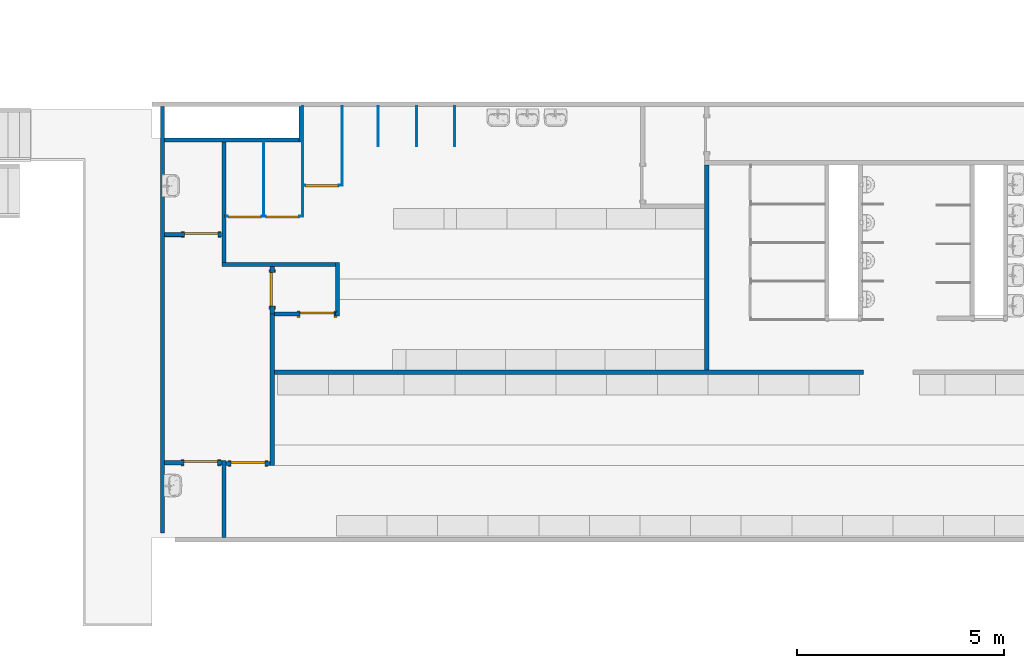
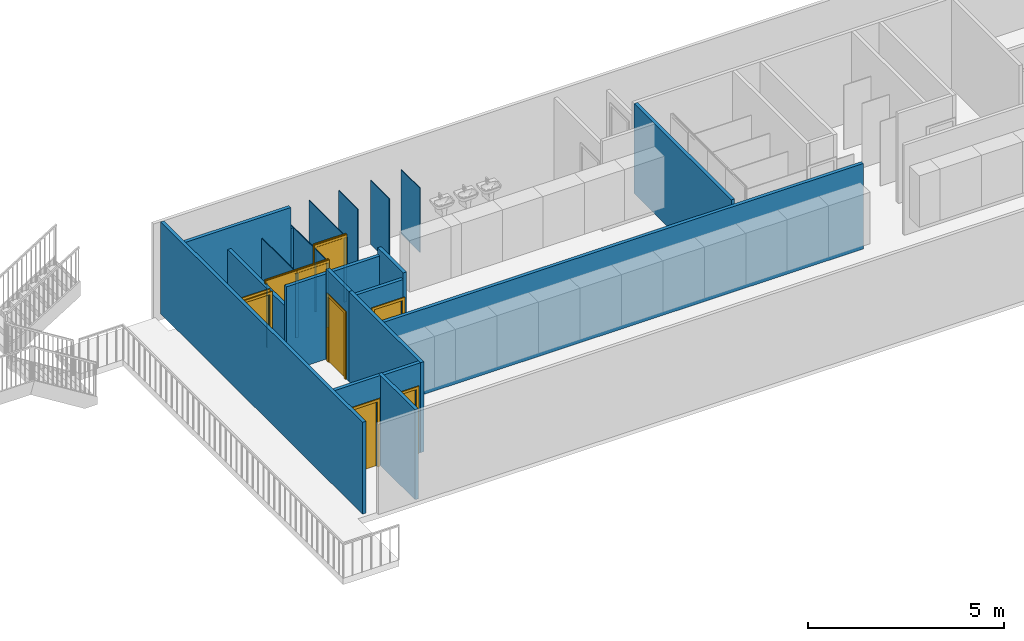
# One storey, part 5 of 14: 24 walls, 8 doors, 8 openings.
"""IFC2X3 building model written with IfcOpenShell, lengths in millimetres."""

from ifc_helpers import new_model, entity, si_unit, converted_unit, derived_unit, direction, frame, frame_2d, origin, origin_2d_with_axis, place, context, subcontext, project, spatial, polyline, rectangle, outline, extrude, clip, bounded_halfspace, source, transform, mapped, material, material_list, layer, layer_set, layer_usage, type_object, type_shapes, element, fill, save


model = new_model("IFC2X3")

# Units and contexts
model_context = context("Model", 3, precision=0.01, world=origin(), true_north=direction((4.05803320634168e-15, -1.0)))
body_context = subcontext(model_context, "Body", "Model", "MODEL_VIEW")
ifc_project = project(units=[si_unit("LENGTHUNIT", "METRE", prefix="MILLI"), si_unit("AREAUNIT", "SQUARE_METRE"), si_unit("VOLUMEUNIT", "CUBIC_METRE"), converted_unit("PLANEANGLEUNIT", "DEGREE", entity("IfcRatioMeasure", 0.0174532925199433), si_unit("PLANEANGLEUNIT", "RADIAN"), dimensions=[0, 0, 0, 0, 0, 0, 0]), si_unit("MASSUNIT", "GRAM", prefix="KILO"), derived_unit("MASSDENSITYUNIT", [(si_unit("MASSUNIT", "GRAM", prefix="KILO"), 1), (si_unit("LENGTHUNIT", "METRE"), -3)]), si_unit("TIMEUNIT", "SECOND"), si_unit("FREQUENCYUNIT", "HERTZ"), si_unit("THERMODYNAMICTEMPERATUREUNIT", "DEGREE_CELSIUS"), derived_unit("THERMALTRANSMITTANCEUNIT", [(si_unit("MASSUNIT", "GRAM", prefix="KILO"), 1), (si_unit("THERMODYNAMICTEMPERATUREUNIT", "KELVIN"), -1), (si_unit("TIMEUNIT", "SECOND"), -3)]), derived_unit("VOLUMETRICFLOWRATEUNIT", [(si_unit("LENGTHUNIT", "METRE"), 3), (si_unit("TIMEUNIT", "SECOND"), -1)]), si_unit("ELECTRICCURRENTUNIT", "AMPERE"), si_unit("ELECTRICVOLTAGEUNIT", "VOLT"), si_unit("POWERUNIT", "WATT"), si_unit("FORCEUNIT", "NEWTON", prefix="KILO"), si_unit("ILLUMINANCEUNIT", "LUX"), si_unit("LUMINOUSFLUXUNIT", "LUMEN"), si_unit("LUMINOUSINTENSITYUNIT", "CANDELA"), derived_unit("USERDEFINED", [(si_unit("MASSUNIT", "GRAM", prefix="KILO"), -1), (si_unit("LENGTHUNIT", "METRE"), -2), (si_unit("TIMEUNIT", "SECOND"), 3), (si_unit("LUMINOUSFLUXUNIT", "LUMEN"), 1)]), derived_unit("LINEARVELOCITYUNIT", [(si_unit("LENGTHUNIT", "METRE"), 1), (si_unit("TIMEUNIT", "SECOND"), -1)]), si_unit("PRESSUREUNIT", "PASCAL"), derived_unit("USERDEFINED", [(si_unit("LENGTHUNIT", "METRE"), -2), (si_unit("MASSUNIT", "GRAM", prefix="KILO"), 1), (si_unit("TIMEUNIT", "SECOND"), -2)])], contexts=[model_context])

# Site, building, storey
site_placement = place(None, frame((927466.849349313, 583801.882853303, 0.0), z_axis=(0.0, 0.0, 1.0), x_axis=(-1.0, 0.0, 0.0)))
site = spatial("IfcSite", under=ifc_project, at=site_placement, Name="Surface", CompositionType="ELEMENT")
building_placement = place(site_placement, origin())
building = spatial("IfcBuilding", under=site, at=building_placement, CompositionType="ELEMENT")
storey_placement = place(building_placement, frame((0.0, 0.0, 48170.0)))
storey = spatial("IfcBuildingStorey", under=building, at=storey_placement, Name="First floor", CompositionType="ELEMENT", Elevation=48170.0)

# Walls
ifc_material_1 = material(Name="Partition")
ifc_layer_1 = layer(ifc_material_1, 100.0)
ifc_layer_set_1 = layer_set([ifc_layer_1], Name="Basic Wall:wall 90 Partition")
ifc_layer_usage_1 = layer_usage(ifc_layer_set_1, "AXIS2", "POSITIVE", -50.0)
wall_type_1 = type_object("IfcWallType", Name="Basic Wall:wall 90 Partition", PredefinedType="STANDARD", material=ifc_layer_set_1)
wall_1_placement = place(storey_placement, frame((-83843.1454492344, 18419.2777512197, 0.0), z_axis=(0.0, 0.0, 1.0), x_axis=(-1.0, 0.0, 0.0)))
element("IfcWallStandardCase", 1, at=wall_1_placement, inside=storey, type_object=wall_type_1, material=ifc_layer_usage_1, Name="Basic Wall:wall 90 Partition", ObjectType="Basic Wall:wall 90 Partition", context=body_context, shape_type="SweptSolid", body=[
    extrude(rectangle(XDim=14199.774002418, YDim=99.9999999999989, at=frame_2d((7099.88700120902, 3.65929508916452e-13), x_axis=(-1.0, 0.0))), origin(), (0.0, 0.0, 1.0), 2657.10660368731),
])
ifc_layer_usage_2 = layer_usage(ifc_layer_set_1, "AXIS2", "NEGATIVE", 50.0)
wall_2_placement = place(storey_placement, frame((-83793.1454492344, 20669.2777512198, 0.0), z_axis=(0.0, 0.0, 1.0), x_axis=(0.0, -1.0, 0.0)))
element("IfcWallStandardCase", 2, at=wall_2_placement, inside=storey, type_object=wall_type_1, material=ifc_layer_usage_2, Name="Basic Wall:wall 90 Partition", ObjectType="Basic Wall:wall 90 Partition", context=body_context, shape_type="SweptSolid", body=[
    extrude(rectangle(XDim=3700.00984857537, YDim=100.000000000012, at=frame_2d((1850.00492428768, -2.68585154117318e-12), x_axis=(-1.0, 0.0))), origin(), (0.0, 0.0, 1.0), 2800.0),
])

# Wall, opening, door
ifc_layer_usage_3 = layer_usage(ifc_layer_set_1, "AXIS2", "POSITIVE", -50.0)
wall_3_placement = place(storey_placement, frame((-82678.1448144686, 20619.2777512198, 0.0), z_axis=(0.0, 0.0, 1.0), x_axis=(-1.0, 0.0, 0.0)))
wall_3 = element("IfcWallStandardCase", 3, at=wall_3_placement, inside=storey, type_object=wall_type_1, material=ifc_layer_usage_3, Name="Basic Wall:wall 90 Partition", ObjectType="Basic Wall:wall 90 Partition", context=body_context, shape_type="SweptSolid", body=[
    extrude(rectangle(XDim=1065.00063476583, YDim=100.000000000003, at=frame_2d((532.500317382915, 1.19371179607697e-12), x_axis=(-1.0, 0.0))), origin(), (0.0, 0.0, 1.0), 2800.0),
])
opening_1_placement = place(wall_3_placement, frame((126.000317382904, -50.0, 0.0)))
opening_1 = element("IfcOpeningElement", 4, at=opening_1_placement, cuts=wall_3, Name="M_Single-Flush:0813 x 2030mm:1", ObjectType="Opening", context=body_context, shape_type="SweptSolid", body=[
    extrude(rectangle(XDim=813.0, YDim=2030.0, at=frame_2d((1015.0, 406.500000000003), x_axis=(0.0, -1.0))), frame((0.0, 0.0, 0.0), z_axis=(0.0, 1.0, 0.0), x_axis=(0.0, 0.0, 1.0)), (0.0, 0.0, 1.0), 100.0),
])
ifc_material_2 = material(Name="Door - Frame")
ifc_material_3 = material(Name="Door - Panel")
ifc_material_list_1 = material_list([ifc_material_2, ifc_material_3])
ifc_material_list_2 = material_list([ifc_material_2, ifc_material_3])
door_style_1 = type_object("IfcDoorStyle", Name="0813 x 2030mm", ConstructionType="NOTDEFINED", OperationType="SINGLE_SWING_LEFT", ParameterTakesPrecedence=False, Sizeable=False, material=ifc_material_list_2)
shared_shape_1 = source(origin(), body_context, "Body", "SweptSolid", [
    extrude(outline(polyline([(-482.5, -1072.0), (482.5, -1072.0), (482.5, 1034.0), (406.5, 1034.0), (406.5, -996.0), (-406.5, -996.0), (-406.5, 1034.0), (-482.5, 1034.0), (-482.5, -1072.0)])), frame((406.5, 125.0, 1034.0), z_axis=(0.0, -1.0, 0.0), x_axis=(-1.0, 0.0, 0.0)), (0.0, 0.0, 1.0), 24.9999999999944),
    extrude(outline(polyline([(-1072.0, -482.499999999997), (1034.0, -482.499999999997), (1034.0, -406.500000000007), (-996.0, -406.500000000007), (-996.0, 406.500000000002), (1034.0, 406.500000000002), (1034.0, 482.500000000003), (-1072.0, 482.500000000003), (-1072.0, -482.499999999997)])), frame((406.499999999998, 0.0, 1034.0), z_axis=(0.0, -1.0, 0.0), x_axis=(0.0, 0.0, -1.0)), (0.0, 0.0, 1.0), 25.0000000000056),
    extrude(rectangle(XDim=813.0, YDim=51.0, at=origin_2d_with_axis()), frame((406.500000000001, 74.4999999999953, 0.0)), (0.0, 0.0, 1.0), 2030.0),
])
type_shapes(door_style_1, [shared_shape_1])
door_1_placement = place(opening_1_placement, origin())
door_1 = element("IfcDoor", 5, at=door_1_placement, inside=storey, type_object=door_style_1, material=ifc_material_list_1, Name="M_Single-Flush:0813 x 2030mm", ObjectType="0813 x 2030mm", OverallHeight=2030.0, OverallWidth=813.000000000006, context=body_context, shape_type="MappedRepresentation", body=[
    mapped(shared_shape_1, transform((0.0, 0.0, 0.0), scale=1.0)),
])
fill(opening_1, door_1)

# Wall
ifc_layer_usage_4 = layer_usage(ifc_layer_set_1, "AXIS2", "NEGATIVE", 50.0)
wall_4_placement = place(storey_placement, frame((-82628.1448144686, 22407.4703266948, 0.0), z_axis=(0.0, 0.0, 1.0), x_axis=(0.0, -1.0, 0.0)))
element("IfcWallStandardCase", 6, at=wall_4_placement, inside=storey, type_object=wall_type_1, material=ifc_layer_usage_4, Name="Basic Wall:wall 90 Partition", ObjectType="Basic Wall:wall 90 Partition", context=body_context, shape_type="SweptSolid", body=[
    extrude(rectangle(XDim=1858.19257547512, YDim=100.000000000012, at=frame_2d((929.096287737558, 3.00204305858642e-12), x_axis=(-1.0, 0.0))), origin(), (0.0, 0.0, 1.0), 2800.0),
])

# Wall, opening, door
ifc_layer_usage_5 = layer_usage(ifc_layer_set_1, "AXIS2", "POSITIVE", -50.0)
wall_5_placement = place(storey_placement, frame((-81200.5917798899, 20599.2777512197, 0.0), z_axis=(0.0, 0.0, 1.0), x_axis=(-1.0, 0.0, 0.0)))
wall_5 = element("IfcWallStandardCase", 7, at=wall_5_placement, inside=storey, type_object=wall_type_1, material=ifc_layer_usage_5, Name="Basic Wall:wall 90 Partition", ObjectType="Basic Wall:wall 90 Partition", context=body_context, shape_type="SweptSolid", body=[
    extrude(rectangle(XDim=1377.55303457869, YDim=100.000000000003, at=frame_2d((688.776517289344, 1.4210854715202e-14), x_axis=(-1.0, 0.0))), origin(), (0.0, 0.0, 1.0), 2800.0),
])
opening_2_placement = place(wall_5_placement, frame((464.553034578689, -50.0, 0.0)))
opening_2 = element("IfcOpeningElement", 8, at=opening_2_placement, cuts=wall_5, Name="M_Single-Flush:0813 x 2030mm:1", ObjectType="Opening", context=body_context, shape_type="SweptSolid", body=[
    extrude(rectangle(XDim=813.0, YDim=2030.0, at=frame_2d((1015.0, 406.500000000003), x_axis=(0.0, 1.0))), frame((0.0, 0.0, 0.0), z_axis=(0.0, 1.0, 0.0), x_axis=(0.0, 0.0, 1.0)), (0.0, 0.0, 1.0), 100.0),
])
ifc_material_list_3 = material_list([ifc_material_2, ifc_material_3])
ifc_material_list_4 = material_list([ifc_material_2, ifc_material_3])
door_style_2 = type_object("IfcDoorStyle", Name="0813 x 2030mm", ConstructionType="NOTDEFINED", OperationType="SINGLE_SWING_RIGHT", ParameterTakesPrecedence=False, Sizeable=False, material=ifc_material_list_4)
shared_shape_2 = source(origin(), body_context, "Body", "SweptSolid", [
    extrude(outline(polyline([(-482.5, -1072.0), (482.5, -1072.0), (482.5, 1034.0), (406.5, 1034.0), (406.5, -996.0), (-406.5, -996.0), (-406.5, 1034.0), (-482.5, 1034.0), (-482.5, -1072.0)])), frame((406.500000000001, 100.0, 1034.0), z_axis=(0.0, 1.0, 0.0), x_axis=(1.0, 0.0, 0.0)), (0.0, 0.0, 1.0), 24.9999999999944),
    extrude(outline(polyline([(-1072.0, -482.499999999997), (1034.0, -482.499999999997), (1034.0, -406.500000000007), (-996.0, -406.500000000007), (-996.0, 406.500000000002), (1034.0, 406.500000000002), (1034.0, 482.500000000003), (-1072.0, 482.500000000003), (-1072.0, -482.499999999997)])), frame((406.500000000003, -25.0, 1034.0), z_axis=(0.0, 1.0, 0.0), x_axis=(0.0, 0.0, -1.0)), (0.0, 0.0, 1.0), 25.0000000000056),
    extrude(rectangle(XDim=51.0, YDim=813.0, at=origin_2d_with_axis()), frame((406.500000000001, 74.4999999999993, 0.0), z_axis=(0.0, 0.0, 1.0), x_axis=(0.0, 1.0, 0.0)), (0.0, 0.0, 1.0), 2030.0),
])
type_shapes(door_style_2, [shared_shape_2])
door_2_placement = place(opening_2_placement, origin())
door_2 = element("IfcDoor", 9, at=door_2_placement, inside=storey, type_object=door_style_2, material=ifc_material_list_3, Name="M_Single-Flush:0813 x 2030mm", ObjectType="0813 x 2030mm", OverallHeight=2030.0, OverallWidth=813.000000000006, context=body_context, shape_type="MappedRepresentation", body=[
    mapped(shared_shape_2, transform((0.0, 0.0, 0.0), scale=1.0)),
])
fill(opening_2, door_2)

# Walls
ifc_layer_usage_6 = layer_usage(ifc_layer_set_1, "AXIS2", "POSITIVE", -50.0)
wall_6_placement = place(storey_placement, frame((-85364.6956615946, 17069.2679026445, 0.0), z_axis=(0.0, 0.0, 1.0), x_axis=(0.0, -1.0, 0.0)))
element("IfcWallStandardCase", 10, at=wall_6_placement, inside=storey, type_object=wall_type_1, material=ifc_layer_usage_6, Name="Basic Wall:wall 90 Partition", ObjectType="Basic Wall:wall 90 Partition", context=body_context, shape_type="SweptSolid", body=[
    extrude(rectangle(XDim=1299.99015142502, YDim=100.000000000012, at=frame_2d((649.995075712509, 0.0), x_axis=(-1.0, 0.0))), origin(), (0.0, 0.0, 1.0), 2857.10660368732),
])
ifc_layer_usage_7 = layer_usage(ifc_layer_set_1, "AXIS2", "POSITIVE", -50.0)
wall_7_placement = place(storey_placement, frame((-85314.6956615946, 15819.2777512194, 0.0)))
element("IfcWallStandardCase", 11, at=wall_7_placement, inside=storey, type_object=wall_type_1, material=ifc_layer_usage_7, Name="Basic Wall:wall 90 Partition", ObjectType="Basic Wall:wall 90 Partition", context=body_context, shape_type="SweptSolid", body=[
    extrude(rectangle(XDim=2736.55084712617, YDim=99.9999999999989, at=frame_2d((1368.27542356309, 0.0), x_axis=(-1.0, 0.0))), origin(), (0.0, 0.0, 1.0), 2657.10660368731),
])
ifc_layer_usage_8 = layer_usage(ifc_layer_set_1, "AXIS2", "POSITIVE", -50.0)
wall_8_placement = place(storey_placement, frame((-82628.1448144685, 15769.2777512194, 0.0), z_axis=(0.0, 0.0, 1.0), x_axis=(0.0, -1.0, 0.0)))
element("IfcWallStandardCase", 12, at=wall_8_placement, inside=storey, type_object=wall_type_1, material=ifc_layer_usage_8, Name="Basic Wall:wall 90 Partition", ObjectType="Basic Wall:wall 90 Partition", context=body_context, shape_type="SweptSolid", body=[
    extrude(rectangle(XDim=2899.99999999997, YDim=100.000000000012, at=frame_2d((1449.99999999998, 0.0), x_axis=(-1.0, 0.0))), origin(), (0.0, 0.0, 1.0), 2000.0),
])
ifc_layer_usage_9 = layer_usage(ifc_layer_set_1, "AXIS2", "POSITIVE", -50.0)
wall_9_placement = place(storey_placement, frame((-84488.1491113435, 12008.2777512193, 0.0), z_axis=(0.0, 0.0, 1.0), x_axis=(0.0, 1.0, 0.0)))
element("IfcWallStandardCase", 13, at=wall_9_placement, inside=storey, type_object=wall_type_1, material=ifc_layer_usage_9, Name="Basic Wall:wall 90 Partition", ObjectType="Basic Wall:wall 90 Partition", context=body_context, shape_type="SweptSolid", body=[
    extrude(rectangle(XDim=861.000000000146, YDim=100.000000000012, at=frame_2d((430.500000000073, 0.0), x_axis=(-1.0, 0.0))), origin(), (0.0, 0.0, 1.0), 2000.0),
])
ifc_layer_usage_10 = layer_usage(ifc_layer_set_1, "AXIS2", "NEGATIVE", 50.0)
wall_10_placement = place(storey_placement, frame((-84438.1491113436, 12819.2777512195, 0.0)))
element("IfcWallStandardCase", 14, at=wall_10_placement, inside=storey, type_object=wall_type_1, material=ifc_layer_usage_10, Name="Basic Wall:wall 90 Partition", ObjectType="Basic Wall:wall 90 Partition", context=body_context, shape_type="SweptSolid", body=[
    extrude(rectangle(XDim=3237.55733145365, YDim=99.9999999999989, at=frame_2d((1618.77866572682, 2.59348098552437e-13), x_axis=(-1.0, 0.0))), origin(), (0.0, 0.0, 1.0), 2657.10660368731),
])
ifc_layer_usage_11 = layer_usage(ifc_layer_set_1, "AXIS2", "POSITIVE", -50.0)
wall_11_placement = place(storey_placement, frame((-81150.5917798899, 12008.2777512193, 0.0), z_axis=(0.0, 0.0, 1.0), x_axis=(0.0, 1.0, 0.0)))
element("IfcWallStandardCase", 15, at=wall_11_placement, inside=storey, type_object=wall_type_1, material=ifc_layer_usage_11, Name="Basic Wall:wall 90 Partition", ObjectType="Basic Wall:wall 90 Partition", context=body_context, shape_type="SweptSolid", body=[
    extrude(rectangle(XDim=10286.4414989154, YDim=100.000000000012, at=frame_2d((5143.22074945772, 3.5527136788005e-15), x_axis=(-1.0, 0.0))), origin(), (0.0, 0.0, 1.0), 2857.10660368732),
])
ifc_layer_usage_12 = layer_usage(ifc_layer_set_1, "AXIS2", "NEGATIVE", 50.0)
wall_12_placement = place(storey_placement, frame((-94264.6956533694, 18369.2777512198, 0.0), z_axis=(0.0, 0.0, 1.0), x_axis=(0.0, -1.0, 0.0)))
element("IfcWallStandardCase", 16, at=wall_12_placement, inside=storey, type_object=wall_type_1, material=ifc_layer_usage_12, Name="Basic Wall:wall 90 Partition", ObjectType="Basic Wall:wall 90 Partition", context=body_context, shape_type="SweptSolid", body=[
    extrude(rectangle(XDim=4950.0098485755, YDim=100.000000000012, at=frame_2d((2475.00492428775, -6.64357457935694e-13), x_axis=(-1.0, 0.0))), origin(), (0.0, 0.0, 1.0), 2800.0),
])

# Wall, opening, door
ifc_layer_usage_13 = layer_usage(ifc_layer_set_1, "AXIS2", "POSITIVE", -50.0)
wall_13_placement = place(storey_placement, frame((-83843.1454492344, 17019.2679026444, 0.0), z_axis=(0.0, 0.0, 1.0), x_axis=(-1.0, 0.0, 0.0)))
wall_13 = element("IfcWallStandardCase", 17, at=wall_13_placement, inside=storey, type_object=wall_type_1, material=ifc_layer_usage_13, Name="Basic Wall:wall 90 Partition", ObjectType="Basic Wall:wall 90 Partition", context=body_context, shape_type="SweptSolid", body=[
    extrude(rectangle(XDim=1471.5502123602, YDim=99.9999999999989, at=frame_2d((735.775106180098, 3.09086090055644e-13), x_axis=(-1.0, 0.0))), origin(), (0.0, 0.0, 1.0), 2657.10660368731),
])
opening_3_placement = place(wall_13_placement, frame((620.0, -50.0, 0.0)))
opening_3 = element("IfcOpeningElement", 18, at=opening_3_placement, cuts=wall_13, Name="M_Single-Flush:0813 x 2030mm:1", ObjectType="Opening", context=body_context, shape_type="SweptSolid", body=[
    extrude(rectangle(XDim=813.0, YDim=2030.0, at=frame_2d((1015.0, 406.500000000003), x_axis=(0.0, 1.0))), frame((0.0, 0.0, 0.0), z_axis=(0.0, 1.0, 0.0), x_axis=(0.0, 0.0, 1.0)), (0.0, 0.0, 1.0), 100.0),
])
ifc_material_list_5 = material_list([ifc_material_2, ifc_material_3])
door_3_placement = place(opening_3_placement, origin())
door_3 = element("IfcDoor", 19, at=door_3_placement, inside=storey, type_object=door_style_2, material=ifc_material_list_5, Name="M_Single-Flush:0813 x 2030mm", ObjectType="0813 x 2030mm", OverallHeight=2030.0, OverallWidth=813.000000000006, context=body_context, shape_type="MappedRepresentation", body=[
    mapped(shared_shape_2, transform((0.0, 0.0, 0.0), scale=1.0)),
])
fill(opening_3, door_3)

ifc_layer_usage_14 = layer_usage(ifc_layer_set_1, "AXIS2", "NEGATIVE", 50.0)
wall_14_placement = place(storey_placement, frame((-82567.1448144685, 15101.2777512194, 0.0)))
wall_14 = element("IfcWallStandardCase", 20, at=wall_14_placement, inside=storey, type_object=wall_type_1, material=ifc_layer_usage_14, Name="Basic Wall:wall 90 Partition", ObjectType="Basic Wall:wall 90 Partition", context=body_context, shape_type="SweptSolid", body=[
    extrude(rectangle(XDim=1366.55303457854, YDim=99.9999999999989, at=frame_2d((683.276517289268, 2.20268248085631e-13), x_axis=(-1.0, 0.0))), origin(), (0.0, 0.0, 1.0), 2000.0),
])
opening_4_placement = place(wall_14_placement, frame((894.0, 50.0, 0.0)))
opening_4 = element("IfcOpeningElement", 21, at=opening_4_placement, cuts=wall_14, Name="M_Single-Flush:0813 x 2030mm:1", ObjectType="Opening", context=body_context, shape_type="SweptSolid", body=[
    extrude(rectangle(XDim=813.0, YDim=2030.0, at=frame_2d((1015.0, 406.500000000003), x_axis=(0.0, -1.0))), frame((0.0, 0.0, 0.0), z_axis=(0.0, -1.0, 0.0), x_axis=(0.0, 0.0, 1.0)), (0.0, 0.0, 1.0), 100.0),
])
ifc_material_list_6 = material_list([ifc_material_2, ifc_material_3])
door_4_placement = place(opening_4_placement, frame((0.0, 0.0, 0.0), z_axis=(0.0, 0.0, 1.0), x_axis=(-1.0, 0.0, 0.0)))
door_4 = element("IfcDoor", 22, at=door_4_placement, inside=storey, type_object=door_style_1, material=ifc_material_list_6, Name="M_Single-Flush:0813 x 2030mm", ObjectType="0813 x 2030mm", OverallHeight=2030.0, OverallWidth=813.000000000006, context=body_context, shape_type="MappedRepresentation", body=[
    mapped(shared_shape_1, transform((0.0, 0.0, 0.0), scale=1.0)),
])
fill(opening_4, door_4)

ifc_layer_usage_15 = layer_usage(ifc_layer_set_1, "AXIS2", "NEGATIVE", 50.0)
wall_15_placement = place(storey_placement, frame((-83793.1454492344, 17019.2679026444, 0.0), z_axis=(0.0, 0.0, 1.0), x_axis=(0.0, -1.0, 0.0)))
wall_15 = element("IfcWallStandardCase", 23, at=wall_15_placement, inside=storey, type_object=wall_type_1, material=ifc_layer_usage_15, Name="Basic Wall:wall 90 Partition", ObjectType="Basic Wall:wall 90 Partition", context=body_context, shape_type="SweptSolid", body=[
    extrude(rectangle(XDim=1149.99015142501, YDim=99.9999999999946, at=frame_2d((574.995075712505, 1.05195852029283e-11), x_axis=(1.0, 0.0))), origin(), (0.0, 0.0, 1.0), 2800.0),
])
opening_5_placement = place(wall_15_placement, frame((193.495075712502, -50.0, 0.0)))
opening_5 = element("IfcOpeningElement", 24, at=opening_5_placement, cuts=wall_15, Name="M_Single-Flush:0813 x 2030mm:1", ObjectType="Opening", context=body_context, shape_type="SweptSolid", body=[
    extrude(rectangle(XDim=813.0, YDim=2030.0, at=frame_2d((1015.0, 406.5), x_axis=(0.0, 1.0))), frame((0.0, 0.0, 0.0), z_axis=(0.0, 1.0, 0.0), x_axis=(0.0, 0.0, 1.0)), (0.0, 0.0, 1.0), 100.0),
])
ifc_material_list_7 = material_list([ifc_material_2, ifc_material_3])
door_5_placement = place(opening_5_placement, origin())
door_5 = element("IfcDoor", 25, at=door_5_placement, inside=storey, type_object=door_style_2, material=ifc_material_list_7, Name="M_Single-Flush:0813 x 2030mm", ObjectType="0813 x 2030mm", OverallHeight=2030.0, OverallWidth=812.999999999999, context=body_context, shape_type="MappedRepresentation", body=[
    mapped(shared_shape_2, transform((0.0, 0.0, 0.0), scale=1.0)),
])
fill(opening_5, door_5)

# Wall
ifc_layer_2 = layer(ifc_material_1, 22.0)
ifc_layer_set_2 = layer_set([ifc_layer_2], Name="Basic Wall:22 Partition")
ifc_layer_usage_16 = layer_usage(ifc_layer_set_2, "AXIS2", "NEGATIVE", 11.0)
wall_type_2 = type_object("IfcWallType", Name="Basic Wall:22 Partition", PredefinedType="STANDARD", material=ifc_layer_set_2)
wall_16_placement = place(storey_placement, frame((-84527.1491113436, 12869.2777512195, 0.0), z_axis=(0.0, 0.0, 1.0), x_axis=(0.0, 1.0, 0.0)))
element("IfcWallStandardCase", 26, at=wall_16_placement, inside=storey, type_object=wall_type_2, material=ifc_layer_usage_16, Name="Basic Wall:22 Partition", ObjectType="Basic Wall:22 Partition", context=body_context, shape_type="SweptSolid", body=[
    extrude(rectangle(XDim=1799.99999999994, YDim=21.999999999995, at=frame_2d((899.999999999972, 0.0), x_axis=(-1.0, 0.0))), origin(), (0.0, 0.0, 1.0), 2000.0),
])

# Wall, openings, doors
ifc_layer_usage_17 = layer_usage(ifc_layer_set_2, "AXIS2", "NEGATIVE", 11.0)
wall_17_placement = place(storey_placement, frame((-84516.1491113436, 14658.2777512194, 0.0)))
wall_17 = element("IfcWallStandardCase", 27, at=wall_17_placement, inside=storey, type_object=wall_type_2, material=ifc_layer_usage_17, Name="Basic Wall:22 Partition", ObjectType="Basic Wall:22 Partition", context=body_context, shape_type="SweptSolid", body=[
    extrude(rectangle(XDim=1838.00429687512, YDim=21.9999999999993, at=frame_2d((919.00214843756, -3.73034936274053e-14), x_axis=(-1.0, 0.0))), origin(), (0.0, 0.0, 1.0), 2000.0),
])
opening_6_placement = place(wall_17_placement, frame((883.0, 11.0, 0.0)))
opening_6 = element("IfcOpeningElement", 28, at=opening_6_placement, cuts=wall_17, Name="M_Single-Flush:0813 x 2030mm:1", ObjectType="Opening", context=body_context, shape_type="SweptSolid", body=[
    extrude(rectangle(XDim=813.0, YDim=2030.0, at=frame_2d((1015.0, 406.500000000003), x_axis=(0.0, -1.0))), frame((0.0, 0.0, 0.0), z_axis=(0.0, -1.0, 0.0), x_axis=(0.0, 0.0, 1.0)), (0.0, 0.0, 1.0), 22.0),
])
opening_7_placement = place(wall_17_placement, frame((1794.50385742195, 11.0, 0.0)))
opening_7 = element("IfcOpeningElement", 29, at=opening_7_placement, cuts=wall_17, Name="M_Single-Flush:0813 x 2030mm:1", ObjectType="Opening", context=body_context, shape_type="SweptSolid", body=[
    extrude(rectangle(XDim=813.0, YDim=2030.0, at=frame_2d((1015.0, 406.500000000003), x_axis=(0.0, -1.0))), frame((0.0, 0.0, 0.0), z_axis=(0.0, -1.0, 0.0), x_axis=(0.0, 0.0, 1.0)), (0.0, 0.0, 1.0), 22.0),
])
ifc_material_list_8 = material_list([ifc_material_2, ifc_material_3])
ifc_material_list_9 = material_list([ifc_material_2, ifc_material_3])
door_style_3 = type_object("IfcDoorStyle", Name="0813 x 2030mm", ConstructionType="NOTDEFINED", OperationType="SINGLE_SWING_LEFT", ParameterTakesPrecedence=False, Sizeable=False, material=ifc_material_list_9)
shared_shape_3 = source(origin(), body_context, "Body", "SweptSolid", [
    extrude(outline(polyline([(-482.5, -1072.0), (482.5, -1072.0), (482.5, 1034.0), (406.5, 1034.0), (406.5, -996.0), (-406.5, -996.0), (-406.5, 1034.0), (-482.5, 1034.0), (-482.5, -1072.0)])), frame((406.5, 47.0, 1034.0), z_axis=(0.0, -1.0, 0.0), x_axis=(-1.0, 0.0, 0.0)), (0.0, 0.0, 1.0), 24.9999999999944),
    extrude(outline(polyline([(-1072.0, -482.499999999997), (1034.0, -482.499999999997), (1034.0, -406.500000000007), (-996.0, -406.500000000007), (-996.0, 406.500000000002), (1034.0, 406.500000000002), (1034.0, 482.500000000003), (-1072.0, 482.500000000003), (-1072.0, -482.499999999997)])), frame((406.499999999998, 0.0, 1034.0), z_axis=(0.0, -1.0, 0.0), x_axis=(0.0, 0.0, -1.0)), (0.0, 0.0, 1.0), 25.0000000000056),
    extrude(rectangle(XDim=813.0, YDim=51.0, at=frame_2d((0.0, 1.77635683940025e-15), x_axis=(1.0, 0.0))), frame((406.500000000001, -3.50000000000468, 0.0)), (0.0, 0.0, 1.0), 2030.0),
])
type_shapes(door_style_3, [shared_shape_3])
door_6_placement = place(opening_6_placement, frame((0.0, 0.0, 0.0), z_axis=(0.0, 0.0, 1.0), x_axis=(-1.0, 0.0, 0.0)))
door_6 = element("IfcDoor", 30, at=door_6_placement, inside=storey, type_object=door_style_3, material=ifc_material_list_8, Name="M_Single-Flush:0813 x 2030mm", ObjectType="0813 x 2030mm", OverallHeight=2030.0, OverallWidth=813.000000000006, context=body_context, shape_type="MappedRepresentation", body=[
    mapped(shared_shape_3, transform((0.0, 0.0, 0.0), scale=1.0)),
])
fill(opening_6, door_6)
ifc_material_list_10 = material_list([ifc_material_2, ifc_material_3])
door_7_placement = place(opening_7_placement, frame((0.0, 0.0, 0.0), z_axis=(0.0, 0.0, 1.0), x_axis=(-1.0, 0.0, 0.0)))
door_7 = element("IfcDoor", 31, at=door_7_placement, inside=storey, type_object=door_style_3, material=ifc_material_list_10, Name="M_Single-Flush:0813 x 2030mm", ObjectType="0813 x 2030mm", OverallHeight=2030.0, OverallWidth=813.000000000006, context=body_context, shape_type="MappedRepresentation", body=[
    mapped(shared_shape_3, transform((0.0, 0.0, 0.0), scale=1.0)),
])
fill(opening_7, door_7)

# Walls
ifc_layer_usage_18 = layer_usage(ifc_layer_set_2, "AXIS2", "POSITIVE", -11.0)
wall_18_placement = place(storey_placement, frame((-83589.1456933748, 12869.2777512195, 0.0), z_axis=(0.0, 0.0, 1.0), x_axis=(0.0, 1.0, 0.0)))
element("IfcWallStandardCase", 32, at=wall_18_placement, inside=storey, type_object=wall_type_2, material=ifc_layer_usage_18, Name="Basic Wall:22 Partition", ObjectType="Basic Wall:22 Partition", context=body_context, shape_type="SweptSolid", body=[
    extrude(rectangle(XDim=1777.99999999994, YDim=21.999999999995, at=frame_2d((888.999999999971, 0.0), x_axis=(-1.0, 0.0))), origin(), (0.0, 0.0, 1.0), 2000.0),
])
ifc_layer_usage_19 = layer_usage(ifc_layer_set_2, "AXIS2", "NEGATIVE", 11.0)
wall_19_placement = place(storey_placement, frame((-88187.1551660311, 12008.2777512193, 0.0), z_axis=(0.0, 0.0, 1.0), x_axis=(0.0, 1.0, 0.0)))
element("IfcWallStandardCase", 33, at=wall_19_placement, inside=storey, type_object=wall_type_2, material=ifc_layer_usage_19, Name="Basic Wall:22 Partition", ObjectType="Basic Wall:22 Partition", context=body_context, shape_type="SweptSolid", body=[
    extrude(rectangle(XDim=961.01328125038, YDim=21.999999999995, at=frame_2d((480.50664062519, 0.0), x_axis=(-1.0, 0.0))), origin(), (0.0, 0.0, 1.0), 2000.0),
])
ifc_layer_usage_20 = layer_usage(ifc_layer_set_2, "AXIS2", "POSITIVE", -11.0)
wall_20_placement = place(storey_placement, frame((-87279.1530175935, 12008.2777512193, 0.0), z_axis=(0.0, 0.0, 1.0), x_axis=(0.0, 1.0, 0.0)))
element("IfcWallStandardCase", 34, at=wall_20_placement, inside=storey, type_object=wall_type_2, material=ifc_layer_usage_20, Name="Basic Wall:22 Partition", ObjectType="Basic Wall:22 Partition", context=body_context, shape_type="SweptSolid", body=[
    extrude(rectangle(XDim=961.013281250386, YDim=21.999999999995, at=frame_2d((480.506640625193, 0.0), x_axis=(-1.0, 0.0))), origin(), (0.0, 0.0, 1.0), 2000.0),
])
ifc_layer_usage_21 = layer_usage(ifc_layer_set_2, "AXIS2", "POSITIVE", -11.0)
wall_21_placement = place(storey_placement, frame((-86349.1508691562, 12008.2777512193, 0.0), z_axis=(0.0, 0.0, 1.0), x_axis=(0.0, 1.0, 0.0)))
element("IfcWallStandardCase", 35, at=wall_21_placement, inside=storey, type_object=wall_type_2, material=ifc_layer_usage_21, Name="Basic Wall:22 Partition", ObjectType="Basic Wall:22 Partition", context=body_context, shape_type="SweptSolid", body=[
    extrude(rectangle(XDim=961.013281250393, YDim=21.999999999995, at=frame_2d((480.506640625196, 0.0), x_axis=(-1.0, 0.0))), origin(), (0.0, 0.0, 1.0), 2000.0),
])
ifc_layer_usage_22 = layer_usage(ifc_layer_set_2, "AXIS2", "NEGATIVE", 11.0)
wall_22_placement = place(storey_placement, frame((-85477.1525293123, 12008.2777512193, 0.0), z_axis=(0.0, 0.0, 1.0), x_axis=(0.0, 1.0, 0.0)))
element("IfcWallStandardCase", 36, at=wall_22_placement, inside=storey, type_object=wall_type_2, material=ifc_layer_usage_22, Name="Basic Wall:22 Partition", ObjectType="Basic Wall:22 Partition", context=body_context, shape_type="SweptSolid", body=[
    extrude(rectangle(XDim=1911.00000000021, YDim=21.999999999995, at=frame_2d((955.500000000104, 0.0), x_axis=(-1.0, 0.0))), origin(), (0.0, 0.0, 1.0), 2000.0),
])

# Wall, opening, door
ifc_layer_usage_23 = layer_usage(ifc_layer_set_2, "AXIS2", "NEGATIVE", 11.0)
wall_23_placement = place(storey_placement, frame((-85466.1525293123, 13908.2777512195, 0.0)))
wall_23 = element("IfcWallStandardCase", 37, at=wall_23_placement, inside=storey, type_object=wall_type_2, material=ifc_layer_usage_23, Name="Basic Wall:22 Partition", ObjectType="Basic Wall:22 Partition", context=body_context, shape_type="Clipping", body=[
    clip(extrude(rectangle(XDim=928.003417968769, YDim=21.9999999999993, at=frame_2d((464.001708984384, -5.44453371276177e-13), x_axis=(-1.0, 0.0))), origin(), (0.0, 0.0, 1.0), 2000.0), bounded_halfspace(frame((928.003417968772, -11.0, 2000.0), z_axis=(-1.0, 0.0, 0.0), x_axis=(0.0, -1.0, 0.0)), True, frame((928.003417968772, -11.0, 2000.0), z_axis=(-1.0, 0.0, 0.0), x_axis=(0.0, -1.0, 0.0)), polyline([(0.0, 0.0), (-22.0, 0.0), (-22.0, -2000.0), (0.0, -2000.0), (0.0, 0.0)]))),
])
opening_8_placement = place(wall_23_placement, frame((883.0, 11.0, 0.0)))
opening_8 = element("IfcOpeningElement", 38, at=opening_8_placement, cuts=wall_23, Name="M_Single-Flush:0813 x 2030mm:1", ObjectType="Opening", context=body_context, shape_type="SweptSolid", body=[
    extrude(rectangle(XDim=813.0, YDim=2030.0, at=frame_2d((1015.0, 406.500000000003), x_axis=(0.0, -1.0))), frame((0.0, 0.0, 0.0), z_axis=(0.0, -1.0, 0.0), x_axis=(0.0, 0.0, 1.0)), (0.0, 0.0, 1.0), 22.0),
])
ifc_material_list_11 = material_list([ifc_material_2, ifc_material_3])
door_8_placement = place(opening_8_placement, frame((0.0, 0.0, 0.0), z_axis=(0.0, 0.0, 1.0), x_axis=(-1.0, 0.0, 0.0)))
door_8 = element("IfcDoor", 39, at=door_8_placement, inside=storey, type_object=door_style_3, material=ifc_material_list_11, Name="M_Single-Flush:0813 x 2030mm", ObjectType="0813 x 2030mm", OverallHeight=2030.0, OverallWidth=813.000000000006, context=body_context, shape_type="MappedRepresentation", body=[
    mapped(shared_shape_3, transform((0.0, 0.0, 0.0), scale=1.0)),
])
fill(opening_8, door_8)

# Wall
ifc_layer_usage_24 = layer_usage(ifc_layer_set_2, "AXIS2", "POSITIVE", -11.0)
wall_24_placement = place(storey_placement, frame((-84529.1491113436, 12008.2777512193, 0.0), z_axis=(0.0, 0.0, 1.0), x_axis=(0.0, 1.0, 0.0)))
element("IfcWallStandardCase", 40, at=wall_24_placement, inside=storey, type_object=wall_type_2, material=ifc_layer_usage_24, Name="Basic Wall:22 Partition", ObjectType="Basic Wall:22 Partition", context=body_context, shape_type="SweptSolid", body=[
    extrude(rectangle(XDim=1889.00000000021, YDim=21.999999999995, at=frame_2d((944.500000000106, 0.0), x_axis=(-1.0, 0.0))), origin(), (0.0, 0.0, 1.0), 2000.0),
])

save(model, "model.ifc")
